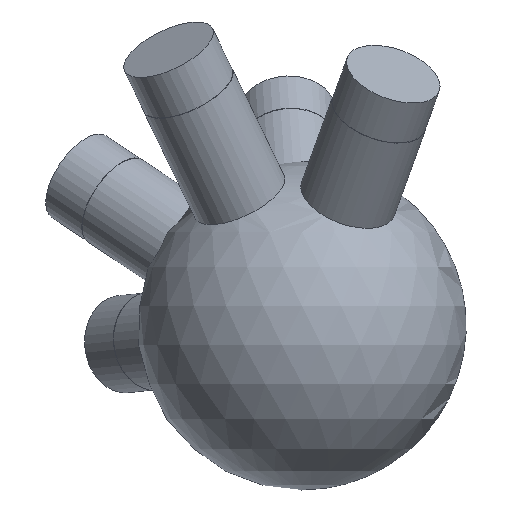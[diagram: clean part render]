
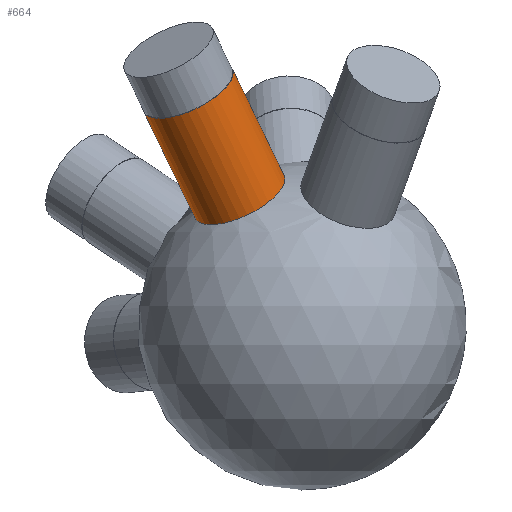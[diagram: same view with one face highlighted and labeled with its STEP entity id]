
A CAD part, front view. The second image highlights one B-rep face of the part: STEP entity #664.
In plain terms, the highlighted cylindrical face has radius 6 mm (diameter 12 mm), a full revolution.
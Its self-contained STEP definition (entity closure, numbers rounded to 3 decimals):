
#35 = SPHERICAL_SURFACE('',#36,20.);
#36 = AXIS2_PLACEMENT_3D('',#37,#38,#39);
#37 = CARTESIAN_POINT('',(0.,0.,0.));
#38 = DIRECTION('',(0.,0.,1.));
#39 = DIRECTION('',(1.,0.,-0.));
#302 = EDGE_CURVE('',#303,#303,#305,.T.);
#303 = VERTEX_POINT('',#304);
#304 = CARTESIAN_POINT('',(-7.595,-2.338,
    18.354));
#305 = SURFACE_CURVE('',#306,(#311,#394),.PCURVE_S1.);
#306 = CIRCLE('',#307,6.);
#307 = AXIS2_PLACEMENT_3D('',#308,#309,#310);
#308 = CARTESIAN_POINT('',(-7.595,-7.722,15.706)
  );
#309 = DIRECTION('',(-0.398,-0.405,0.823));
#310 = DIRECTION('',(0.,-0.897,-0.441)
  );
#311 = PCURVE('',#35,#312);
#312 = DEFINITIONAL_REPRESENTATION('',(#313),#393);
#313 = B_SPLINE_CURVE_WITH_KNOTS('',8,(#314,#315,#316,#317,#318,#319,
    #320,#321,#322,#323,#324,#325,#326,#327,#328,#329,#330,#331,#332,
    #333,#334,#335,#336,#337,#338,#339,#340,#341,#342,#343,#344,#345,
    #346,#347,#348,#349,#350,#351,#352,#353,#354,#355,#356,#357,#358,
    #359,#360,#361,#362,#363,#364,#365,#366,#367,#368,#369,#370,#371,
    #372,#373,#374,#375,#376,#377,#378,#379,#380,#381,#382,#383,#384,
    #385,#386,#387,#388,#389,#390,#391,#392),.UNSPECIFIED.,.F.,.F.,(9,7,
    7,7,7,7,7,7,7,7,7,9),(3.142,3.534,4.271,
    5.559,6.526,7.25,7.794,
    8.202,8.507,8.737,9.081,
    9.425),.UNSPECIFIED.);
#314 = CARTESIAN_POINT('',(3.44,1.162));
#315 = CARTESIAN_POINT('',(3.424,1.149));
#316 = CARTESIAN_POINT('',(3.411,1.135));
#317 = CARTESIAN_POINT('',(3.4,1.121));
#318 = CARTESIAN_POINT('',(3.392,1.107));
#319 = CARTESIAN_POINT('',(3.386,1.092));
#320 = CARTESIAN_POINT('',(3.382,1.078));
#321 = CARTESIAN_POINT('',(3.379,1.063));
#322 = CARTESIAN_POINT('',(3.377,1.021));
#323 = CARTESIAN_POINT('',(3.382,0.993));
#324 = CARTESIAN_POINT('',(3.391,0.966));
#325 = CARTESIAN_POINT('',(3.404,0.939));
#326 = CARTESIAN_POINT('',(3.42,0.913));
#327 = CARTESIAN_POINT('',(3.439,0.887));
#328 = CARTESIAN_POINT('',(3.46,0.863));
#329 = CARTESIAN_POINT('',(3.524,0.801));
#330 = CARTESIAN_POINT('',(3.571,0.764));
#331 = CARTESIAN_POINT('',(3.623,0.733));
#332 = CARTESIAN_POINT('',(3.678,0.707));
#333 = CARTESIAN_POINT('',(3.736,0.686));
#334 = CARTESIAN_POINT('',(3.796,0.672));
#335 = CARTESIAN_POINT('',(3.858,0.664));
#336 = CARTESIAN_POINT('',(3.965,0.661));
#337 = CARTESIAN_POINT('',(4.011,0.664));
#338 = CARTESIAN_POINT('',(4.057,0.67));
#339 = CARTESIAN_POINT('',(4.102,0.68));
#340 = CARTESIAN_POINT('',(4.146,0.693));
#341 = CARTESIAN_POINT('',(4.189,0.709));
#342 = CARTESIAN_POINT('',(4.23,0.729));
#343 = CARTESIAN_POINT('',(4.298,0.768));
#344 = CARTESIAN_POINT('',(4.326,0.787));
#345 = CARTESIAN_POINT('',(4.352,0.807));
#346 = CARTESIAN_POINT('',(4.377,0.828));
#347 = CARTESIAN_POINT('',(4.4,0.851));
#348 = CARTESIAN_POINT('',(4.421,0.874));
#349 = CARTESIAN_POINT('',(4.44,0.899));
#350 = CARTESIAN_POINT('',(4.467,0.944));
#351 = CARTESIAN_POINT('',(4.477,0.963));
#352 = CARTESIAN_POINT('',(4.485,0.983));
#353 = CARTESIAN_POINT('',(4.49,1.004));
#354 = CARTESIAN_POINT('',(4.494,1.024));
#355 = CARTESIAN_POINT('',(4.494,1.045));
#356 = CARTESIAN_POINT('',(4.492,1.065));
#357 = CARTESIAN_POINT('',(4.481,1.1));
#358 = CARTESIAN_POINT('',(4.474,1.115));
#359 = CARTESIAN_POINT('',(4.465,1.13));
#360 = CARTESIAN_POINT('',(4.453,1.145));
#361 = CARTESIAN_POINT('',(4.438,1.159));
#362 = CARTESIAN_POINT('',(4.42,1.172));
#363 = CARTESIAN_POINT('',(4.399,1.185));
#364 = CARTESIAN_POINT('',(4.355,1.207));
#365 = CARTESIAN_POINT('',(4.335,1.216));
#366 = CARTESIAN_POINT('',(4.312,1.224));
#367 = CARTESIAN_POINT('',(4.287,1.232));
#368 = CARTESIAN_POINT('',(4.259,1.239));
#369 = CARTESIAN_POINT('',(4.23,1.245));
#370 = CARTESIAN_POINT('',(4.198,1.251));
#371 = CARTESIAN_POINT('',(4.14,1.26));
#372 = CARTESIAN_POINT('',(4.113,1.263));
#373 = CARTESIAN_POINT('',(4.086,1.266));
#374 = CARTESIAN_POINT('',(4.059,1.268));
#375 = CARTESIAN_POINT('',(4.03,1.27));
#376 = CARTESIAN_POINT('',(4.001,1.271));
#377 = CARTESIAN_POINT('',(3.972,1.272));
#378 = CARTESIAN_POINT('',(3.899,1.272));
#379 = CARTESIAN_POINT('',(3.855,1.271));
#380 = CARTESIAN_POINT('',(3.812,1.269));
#381 = CARTESIAN_POINT('',(3.77,1.265));
#382 = CARTESIAN_POINT('',(3.73,1.261));
#383 = CARTESIAN_POINT('',(3.692,1.255));
#384 = CARTESIAN_POINT('',(3.657,1.248));
#385 = CARTESIAN_POINT('',(3.592,1.233));
#386 = CARTESIAN_POINT('',(3.562,1.225));
#387 = CARTESIAN_POINT('',(3.535,1.216));
#388 = CARTESIAN_POINT('',(3.511,1.206));
#389 = CARTESIAN_POINT('',(3.49,1.196));
#390 = CARTESIAN_POINT('',(3.471,1.185));
#391 = CARTESIAN_POINT('',(3.454,1.174));
#392 = CARTESIAN_POINT('',(3.44,1.162));
#393 = ( GEOMETRIC_REPRESENTATION_CONTEXT(2) 
PARAMETRIC_REPRESENTATION_CONTEXT() REPRESENTATION_CONTEXT('2D SPACE',''
  ) );
#394 = PCURVE('',#395,#400);
#395 = CYLINDRICAL_SURFACE('',#396,6.);
#396 = AXIS2_PLACEMENT_3D('',#397,#398,#399);
#397 = CARTESIAN_POINT('',(0.,0.,0.));
#398 = DIRECTION('',(-0.398,-0.405,0.823));
#399 = DIRECTION('',(0.,0.897,0.441)
  );
#400 = DEFINITIONAL_REPRESENTATION('',(#401),#405);
#401 = LINE('',#402,#403);
#402 = CARTESIAN_POINT('',(-3.142,19.079));
#403 = VECTOR('',#404,1.);
#404 = DIRECTION('',(1.,0.));
#405 = ( GEOMETRIC_REPRESENTATION_CONTEXT(2) 
PARAMETRIC_REPRESENTATION_CONTEXT() REPRESENTATION_CONTEXT('2D SPACE',''
  ) );
#664 = ADVANCED_FACE('',(#665),#395,.T.);
#665 = FACE_BOUND('',#666,.T.);
#666 = EDGE_LOOP('',(#667,#690,#717,#718));
#667 = ORIENTED_EDGE('',*,*,#668,.T.);
#668 = EDGE_CURVE('',#303,#669,#671,.T.);
#669 = VERTEX_POINT('',#670);
#670 = CARTESIAN_POINT('',(-13.85,-8.698,
    31.29));
#671 = SEAM_CURVE('',#672,(#676,#683),.PCURVE_S1.);
#672 = LINE('',#673,#674);
#673 = CARTESIAN_POINT('',(0.,5.384,
    2.647));
#674 = VECTOR('',#675,1.);
#675 = DIRECTION('',(-0.398,-0.405,0.823));
#676 = PCURVE('',#395,#677);
#677 = DEFINITIONAL_REPRESENTATION('',(#678),#682);
#678 = LINE('',#679,#680);
#679 = CARTESIAN_POINT('',(6.283,-0.));
#680 = VECTOR('',#681,1.);
#681 = DIRECTION('',(0.,1.));
#682 = ( GEOMETRIC_REPRESENTATION_CONTEXT(2) 
PARAMETRIC_REPRESENTATION_CONTEXT() REPRESENTATION_CONTEXT('2D SPACE',''
  ) );
#683 = PCURVE('',#395,#684);
#684 = DEFINITIONAL_REPRESENTATION('',(#685),#689);
#685 = LINE('',#686,#687);
#686 = CARTESIAN_POINT('',(0.,-0.));
#687 = VECTOR('',#688,1.);
#688 = DIRECTION('',(0.,1.));
#689 = ( GEOMETRIC_REPRESENTATION_CONTEXT(2) 
PARAMETRIC_REPRESENTATION_CONTEXT() REPRESENTATION_CONTEXT('2D SPACE',''
  ) );
#690 = ORIENTED_EDGE('',*,*,#691,.F.);
#691 = EDGE_CURVE('',#669,#669,#692,.T.);
#692 = SURFACE_CURVE('',#693,(#698,#705),.PCURVE_S1.);
#693 = CIRCLE('',#694,6.);
#694 = AXIS2_PLACEMENT_3D('',#695,#696,#697);
#695 = CARTESIAN_POINT('',(-13.85,-14.082,
    28.643));
#696 = DIRECTION('',(-0.398,-0.405,0.823));
#697 = DIRECTION('',(0.,0.897,0.441));
#698 = PCURVE('',#395,#699);
#699 = DEFINITIONAL_REPRESENTATION('',(#700),#704);
#700 = LINE('',#701,#702);
#701 = CARTESIAN_POINT('',(0.,34.793));
#702 = VECTOR('',#703,1.);
#703 = DIRECTION('',(1.,0.));
#704 = ( GEOMETRIC_REPRESENTATION_CONTEXT(2) 
PARAMETRIC_REPRESENTATION_CONTEXT() REPRESENTATION_CONTEXT('2D SPACE',''
  ) );
#705 = PCURVE('',#706,#711);
#706 = PLANE('',#707);
#707 = AXIS2_PLACEMENT_3D('',#708,#709,#710);
#708 = CARTESIAN_POINT('',(-13.85,-14.082,
    28.643));
#709 = DIRECTION('',(-0.398,-0.405,0.823));
#710 = DIRECTION('',(0.,0.897,0.441)
  );
#711 = DEFINITIONAL_REPRESENTATION('',(#712),#716);
#712 = CIRCLE('',#713,6.);
#713 = AXIS2_PLACEMENT_2D('',#714,#715);
#714 = CARTESIAN_POINT('',(0.,0.));
#715 = DIRECTION('',(1.,0.));
#716 = ( GEOMETRIC_REPRESENTATION_CONTEXT(2) 
PARAMETRIC_REPRESENTATION_CONTEXT() REPRESENTATION_CONTEXT('2D SPACE',''
  ) );
#717 = ORIENTED_EDGE('',*,*,#668,.F.);
#718 = ORIENTED_EDGE('',*,*,#302,.T.);
